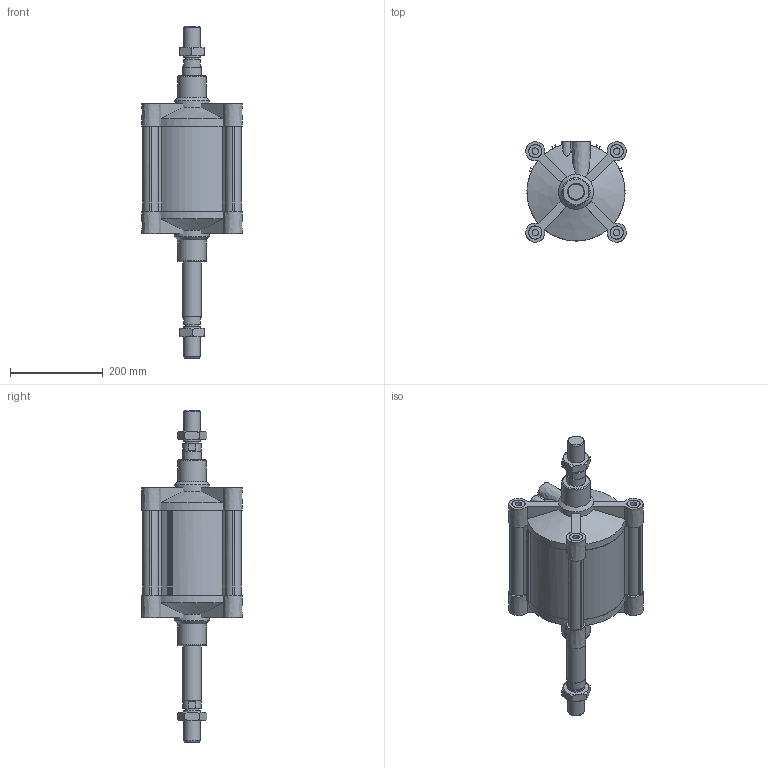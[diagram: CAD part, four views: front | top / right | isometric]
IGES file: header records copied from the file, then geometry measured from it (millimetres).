
Global section: file name: 139#_200_0100_02; native system: Autodesk Inventor 2014; preprocessor: unknown; author: F. Piloni; organization: Pneumax S.p.A.; date: 20151120.143200; units: millimetre
Bounding box: 216 x 216 x 714 mm (x, y, z)
Volume: 7262848.6 mm3; surface area: 902459.4 mm2
Topology: 6 solids, 6 shells, 324 faces, 844 edges, 567 vertices
Faces by surface type: bspline 324
